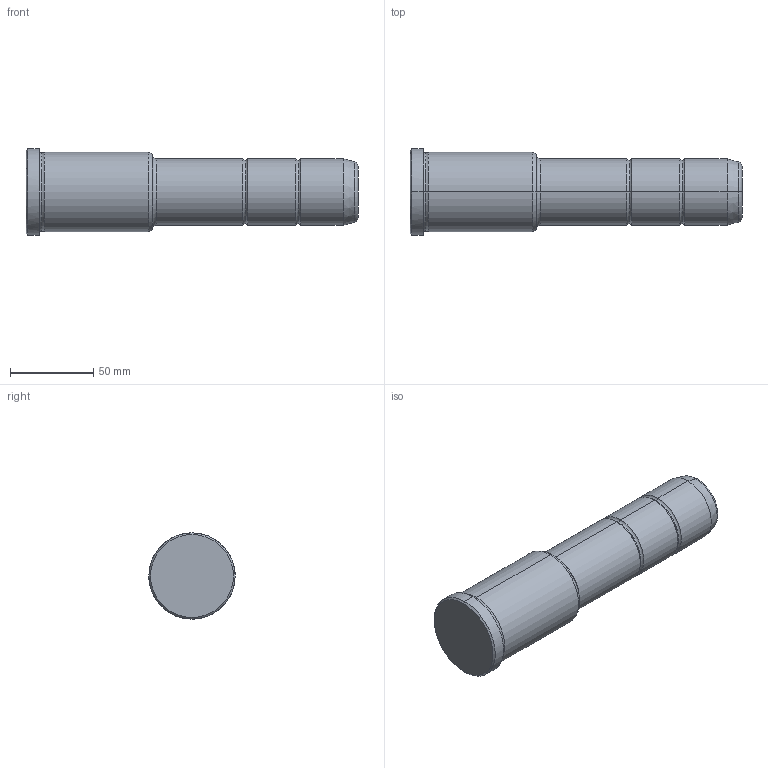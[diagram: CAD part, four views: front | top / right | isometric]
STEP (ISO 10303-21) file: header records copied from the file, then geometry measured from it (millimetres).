
FILE_DESCRIPTION(('CATIA V5 STEP Exchange'),'2;1');
FILE_NAME('C:\Users\Utente\Desktop\IO LAVORO\3D X SITO CF\X SITO\PLASTICA\351\351-40X76X200.stp','2021-10-08T06:41:36+00:00',('none'),('none'),'CATIA Version 5 Release 20 GA (IN-10)','CATIA V5 STEP AP203','none');
FILE_SCHEMA(('CONFIG_CONTROL_DESIGN'));
Length unit declared in the file: millimetre
Products named in the file (1): 351-40X76X200
Bounding box: 200 x 52 x 52 mm (x, y, z)
Volume: 293678.8 mm3; surface area: 30838.7 mm2
Topology: 1 solids, 1 shells, 36 faces, 102 edges, 70 vertices
Faces by surface type: torus 16, cylinder 10, cone 6, plane 4
Entity records: 1292 total; most frequent: CARTESIAN_POINT 321, ORIENTED_EDGE 204, DIRECTION 166, AXIS2_PLACEMENT_3D 115, EDGE_CURVE 102, CIRCLE 78, VERTEX_POINT 70, EDGE_LOOP 38
